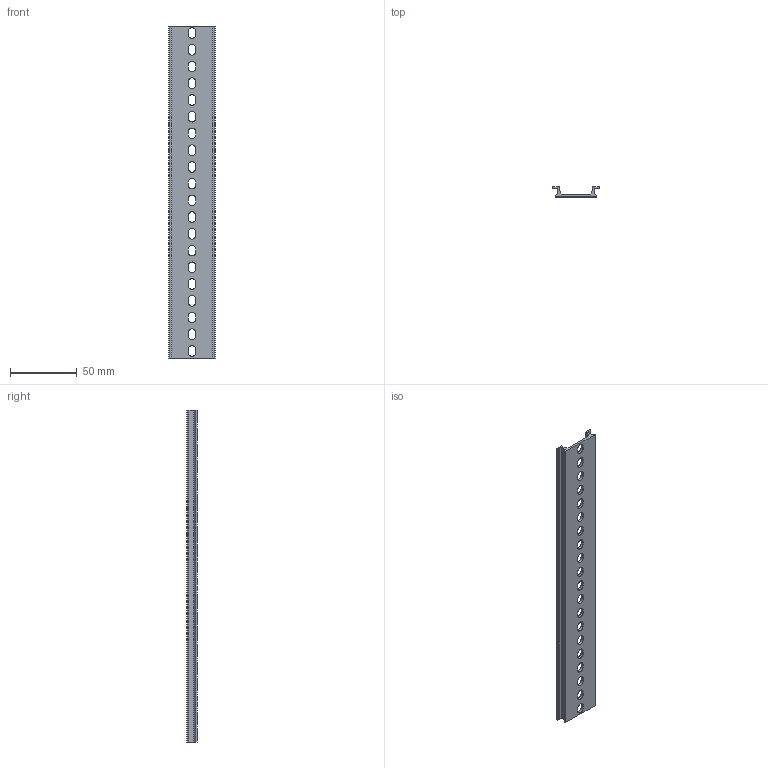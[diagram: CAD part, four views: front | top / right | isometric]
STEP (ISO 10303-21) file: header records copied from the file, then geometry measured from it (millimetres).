
FILE_DESCRIPTION(/* description */ ('STEP AP242','CAx-IF Rec.Pracs.---Representation and Presentation of Product Manufacturing Information (PMI)---4.0---2014-10-13','CAx-IF Rec.Pracs.---3D Tessellated Geometry---0.4---2014-09-14','2;1'),/* implementation_level */ '2;1');
FILE_NAME(/* name */ 'VZ1000-11-1-12_JSY3000',/* time_stamp */ '2026-03-27T01:51:05+01:00',/* author */ ('License CC BY-ND 4.0'),/* organization */ ('CADENAS'),/* preprocessor_version */ 'ST-DEVELOPER v20',/* originating_system */ 'PARTsolutions',/* authorisation */ ' ');
FILE_SCHEMA (('AP242_MANAGED_MODEL_BASED_3D_ENGINEERING_MIM_LF { 1 0 10303 442 1 1 4 }'));
Length unit declared in the file: millimetre
Products named in the file (1): VZ1000-11-1-12_JSY3000
Bounding box: 35 x 7.5 x 248 mm (x, y, z)
Volume: 20017.5 mm3; surface area: 23881.6 mm2
Topology: 1 solids, 1 shells, 110 faces, 324 edges, 216 vertices
Faces by surface type: plane 66, cylinder 44
Entity records: 3778 total; most frequent: CARTESIAN_POINT 651, ORIENTED_EDGE 648, DIRECTION 634, EDGE_CURVE 324, LINE 236, VECTOR 236, VERTEX_POINT 216, AXIS2_PLACEMENT_3D 199
